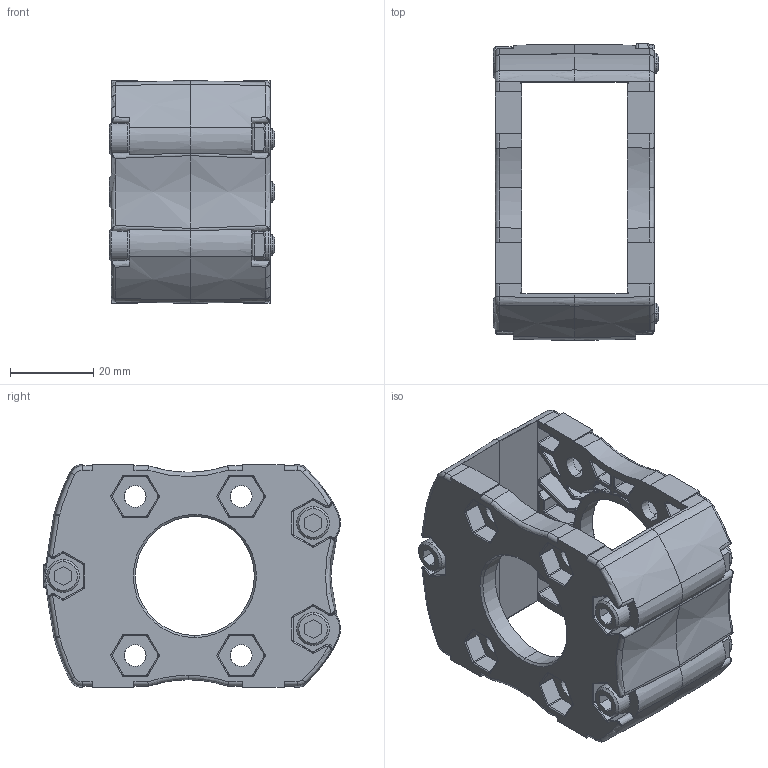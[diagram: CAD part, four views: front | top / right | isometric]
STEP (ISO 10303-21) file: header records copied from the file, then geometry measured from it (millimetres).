
FILE_DESCRIPTION (( 'STEP AP214' ), '1' );
FILE_NAME ('217-4155-STEP-20140806.STEP', '2014-08-06T21:55:11', ( '' ), ( '' ), 'SwSTEP 2.0', 'SolidWorks 2014', '' );
FILE_SCHEMA (( 'AUTOMOTIVE_DESIGN' ));
Length unit declared in the file: millimetre
Products named in the file (4): 217-4155-002 Rev2_NNY1032-ZC; 217-4155-003 Rev1_SSA1032-1375ZB; 217-4155-001 Rev6; 217-4155-STEP-20140806
Assembly tree (8 placements, depth 2):
  217-4155-STEP-20140806
    217-4155-001 Rev6  x2
    217-4155-003 Rev1_SSA1032-1375ZB  x3
    217-4155-002 Rev2_NNY1032-ZC  x3
Bounding box: 39.75 x 71.14 x 53.42 mm (x, y, z)
Volume: 38427.4 mm3; surface area: 37150.3 mm2
Topology: 8 solids, 8 shells, 2397 faces, 6074 edges, 3724 vertices
Faces by surface type: cylinder 760, bspline 646, plane 579, cone 242, torus 114, sphere 56
Entity records: 42392 total; most frequent: CARTESIAN_POINT 17382, ORIENTED_EDGE 5960, DIRECTION 4369, EDGE_CURVE 2980, VERTEX_POINT 1831, AXIS2_PLACEMENT_3D 1661, EDGE_LOOP 1213, ADVANCED_FACE 1175
